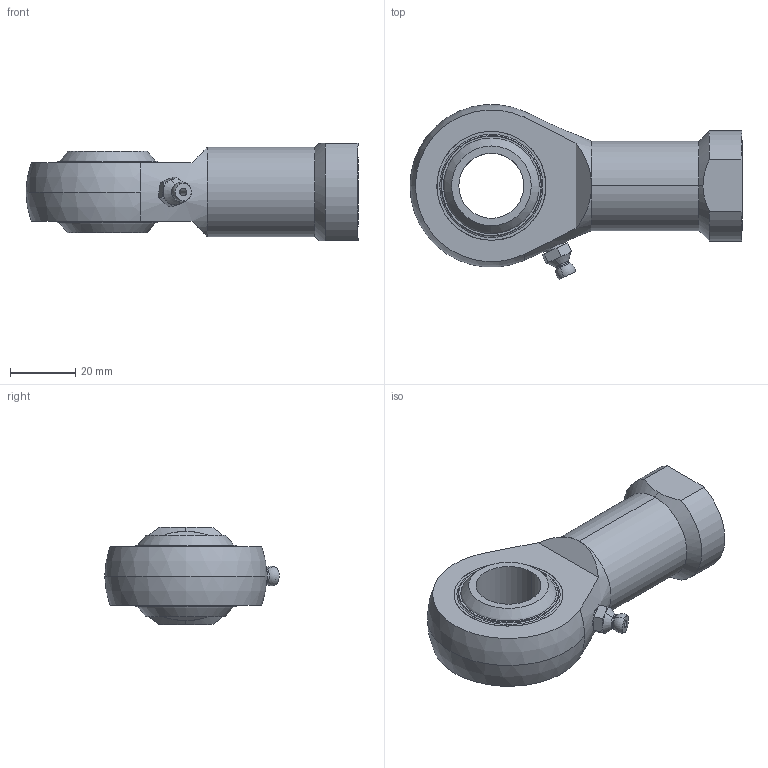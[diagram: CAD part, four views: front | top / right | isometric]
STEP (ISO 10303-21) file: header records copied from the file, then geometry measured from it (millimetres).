
FILE_DESCRIPTION (( 'STEP AP203' ), '1' );
FILE_NAME ('65760.W0220.step', '2014-02-11T16:40:08', ( 'User' ), ( '' ), 'SwSTEP 2.0', 'SolidWorks 2009', '' );
FILE_SCHEMA (( 'CONFIG_CONTROL_DESIGN' ));
Length unit declared in the file: millimetre
Products named in the file (5): 65760.W0220; Part1_65760.W0220; Part2_65760.W0220; Part4_65760.W0220; Part3_M6
Assembly tree (5 placements, depth 2):
  65760.W0220
    Part2_65760.W0220
    Part3_M6
    Part1_65760.W0220
    Part4_65760.W0220  x2
Bounding box: 102 x 53.6 x 30 mm (x, y, z)
Volume: 51847.8 mm3; surface area: 24211.9 mm2
Topology: 46 solids, 46 shells, 183 faces, 524 edges, 353 vertices
Faces by surface type: sphere 98, plane 27, torus 22, cylinder 20, cone 16
Entity records: 4807 total; most frequent: CARTESIAN_POINT 901, DIRECTION 814, ORIENTED_EDGE 558, AXIS2_PLACEMENT_3D 385, EDGE_CURVE 279, VERTEX_POINT 208, CIRCLE 207, EDGE_LOOP 189
